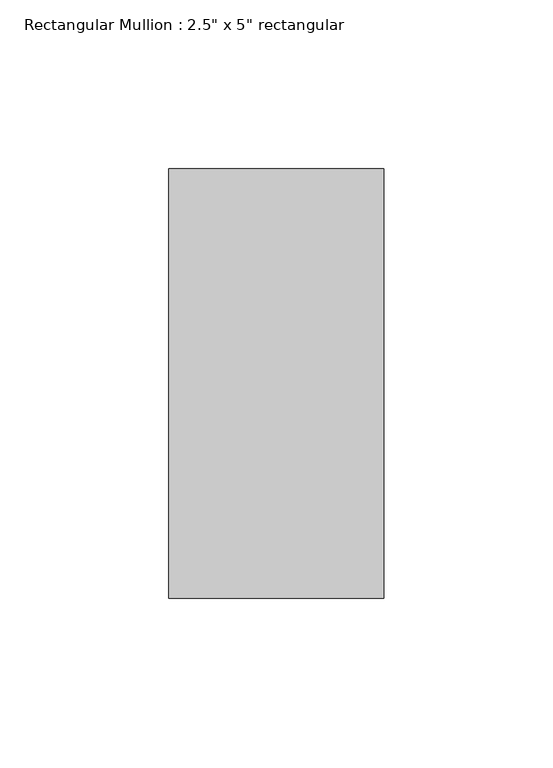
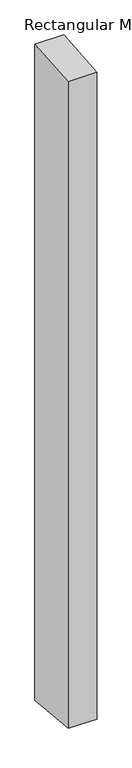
"""IFC4 building model written with IfcOpenShell, lengths in millimetres: member geometry."""

import ifcopenshell
import ifcopenshell.guid

model = None  # the IFC model being written
_history = None  # IfcOwnerHistory: only IFC2X3 demands one
_inside = {}  # id of a spatial element -> (the spatial element, [elements in it])
_under = {}  # id of a project, library or spatial element -> (it, [spatial elements below it])
_declared = {}  # id of a project -> (the project, [libraries it declares])
_typed = {}  # id of a type object -> (the type object, [elements of that type])
_made_of = {}  # id of a material, layer set ... -> (it, [elements and type objects made of it])


def new_model(schema):
    """Start an empty IFC model of exactly this schema.

    Asked for "IFC4X3", IfcOpenShell would pick the latest addendum, in which some entities
    have other attributes; the version numbers below select the first issue.
    IFC2X3 requires an IfcOwnerHistory on every rooted entity: one is made here for all.
    """
    global model, _history
    if schema == "IFC4X3":
        model = ifcopenshell.file(schema_version=(4, 3, 0, 0))
    else:
        model = ifcopenshell.file(schema=schema)
    _inside.clear()
    _under.clear()
    _declared.clear()
    _typed.clear()
    _made_of.clear()
    _history = None
    if model.schema == "IFC2X3":
        org = make("IfcOrganization", Name="unknown")
        user = make(
            "IfcPersonAndOrganization",
            ThePerson=make("IfcPerson", FamilyName="unknown"),
            TheOrganization=org,
        )
        app = make(
            "IfcApplication",
            ApplicationDeveloper=org,
            Version="unknown",
            ApplicationFullName="unknown",
            ApplicationIdentifier="unknown",
        )
        _history = make(
            "IfcOwnerHistory",
            OwningUser=user,
            OwningApplication=app,
            ChangeAction="ADDED",
            CreationDate=0,
        )
    return model


def make(cls, **values):
    """One entity of the class cls with the attributes given. An attribute that is None is left unset."""
    return model.create_entity(
        cls, **{name: value for name, value in values.items() if value is not None}
    )


def rooted(cls, **values):
    """An entity with a GlobalId (a new one), such as an element, a storey or a relation."""
    return make(cls, GlobalId=ifcopenshell.guid.new(), OwnerHistory=_history, **values)


def si_unit(unit_type, name, prefix=None):
    """IfcSIUnit, for example si_unit("LENGTHUNIT", "METRE", prefix="MILLI")."""
    return make("IfcSIUnit", UnitType=unit_type, Prefix=prefix, Name=name)


def assignment(units):
    """IfcUnitAssignment: the units of a project."""
    return None if units is None else make("IfcUnitAssignment", Units=units)


def point(xyz):
    """IfcCartesianPoint."""
    return None if xyz is None else make("IfcCartesianPoint", Coordinates=xyz)


def direction(xyz):
    """IfcDirection."""
    return None if xyz is None else make("IfcDirection", DirectionRatios=xyz)


def frame(location, z_axis=None, x_axis=None):
    """IfcAxis2Placement3D, a coordinate frame: its origin and axes. An axis left out is left unset."""
    return make(
        "IfcAxis2Placement3D",
        Location=point(location),
        Axis=direction(z_axis),
        RefDirection=direction(x_axis),
    )


def origin():
    """The frame at (0, 0, 0) with its axes left unset."""
    return frame((0.0, 0.0, 0.0))


def place(relative_to, where):
    """IfcLocalPlacement: puts the frame where relative to a parent placement (None: the world)."""
    return make(
        "IfcLocalPlacement", PlacementRelTo=relative_to, RelativePlacement=where
    )


def context(
    kind, dimensions, precision=None, world=None, true_north=None, identifier=None
):
    """IfcGeometricRepresentationContext, for example the 3D "Model" context."""
    return make(
        "IfcGeometricRepresentationContext",
        ContextIdentifier=identifier,
        ContextType=kind,
        CoordinateSpaceDimension=dimensions,
        Precision=precision,
        WorldCoordinateSystem=world,
        TrueNorth=true_north,
    )


def project(units=None, contexts=None):
    """IfcProject with its units and contexts."""
    return rooted(
        "IfcProject",
        Name="project",
        RepresentationContexts=contexts,
        UnitsInContext=assignment(units),
    )


def spatial(cls, under=None, at=None, **own):
    """A site, building, storey or space (cls), placed at a placement, below another one or the project."""
    s = rooted(cls, ObjectPlacement=at, **own)
    if under is not None:
        _under.setdefault(under.id(), (under, []))[1].append(s)
    return s


def faces_of(points, faces, orient=None, outer=None):
    """IfcFace entities. A face is a list of loops; a loop is a list of indices into points, from 0.

    orient and outer hold one flag for each loop. By default every Orientation is true, the
    first loop of a face is its IfcFaceOuterBound and the others are IfcFaceBound.
    """
    made = []
    for i, loops in enumerate(faces):
        bounds = []
        for j, loop in enumerate(loops):
            is_outer = j == 0 if outer is None else outer[i][j]
            bounds.append(
                make(
                    "IfcFaceOuterBound" if is_outer else "IfcFaceBound",
                    Bound=make("IfcPolyLoop", Polygon=[points[k] for k in loop]),
                    Orientation=True if orient is None else orient[i][j],
                )
            )
        made.append(make("IfcFace", Bounds=bounds))
    return made


def faceted_brep(points, faces, orient=None, outer=None, voids=None):
    """IfcFacetedBrep: a solid bounded by flat faces; with voids (closed shells), ...WithVoids."""
    shared = [point(p) for p in points]
    hull = make("IfcClosedShell", CfsFaces=faces_of(shared, faces, orient, outer))
    if voids is None:
        return make("IfcFacetedBrep", Outer=hull)
    return make(
        "IfcFacetedBrepWithVoids",
        Outer=hull,
        Voids=[
            make(cls, CfsFaces=faces_of(shared, fs, o, b)) for cls, fs, o, b in voids
        ],
    )


def shape(context_of_items, identifier, shape_type, items):
    """IfcShapeRepresentation: the items that make up one representation, for example the "Body"."""
    return make(
        "IfcShapeRepresentation",
        ContextOfItems=context_of_items,
        RepresentationIdentifier=identifier,
        RepresentationType=shape_type,
        Items=items,
    )


def source(mapping_origin, context_of_items, identifier, shape_type, items):
    """IfcRepresentationMap: a shape defined once, which mapped items show again and again."""
    return make(
        "IfcRepresentationMap",
        MappingOrigin=mapping_origin,
        MappedRepresentation=shape(context_of_items, identifier, shape_type, items),
    )


def transform(
    local_origin,
    x_axis=None,
    y_axis=None,
    z_axis=None,
    scale=None,
    scale2=None,
    scale3=None,
    uniform=True,
):
    """IfcCartesianTransformationOperator3D, or its non-uniform kind. x_axis, y_axis, z_axis: its Axis1, 2, 3."""
    if uniform:
        return make(
            "IfcCartesianTransformationOperator3D",
            Axis1=direction(x_axis),
            Axis2=direction(y_axis),
            LocalOrigin=point(local_origin),
            Scale=scale,
            Axis3=direction(z_axis),
        )
    return make(
        "IfcCartesianTransformationOperator3DnonUniform",
        Axis1=direction(x_axis),
        Axis2=direction(y_axis),
        LocalOrigin=point(local_origin),
        Scale=scale,
        Axis3=direction(z_axis),
        Scale2=scale2,
        Scale3=scale3,
    )


def mapped(mapping_source, mapping_target):
    """IfcMappedItem: shows the shape of a source again, moved by a transform."""
    return make(
        "IfcMappedItem", MappingSource=mapping_source, MappingTarget=mapping_target
    )


def made_of(thing, what):
    """Note that an element or type object is made of a material, layer set ...; save() writes the relation."""
    if what is not None:
        _made_of.setdefault(what.id(), (what, []))[1].append(thing)
    return thing


def element(
    cls,
    number,
    at=None,
    inside=None,
    cuts=None,
    type_object=None,
    material=None,
    context=None,
    identifier="Body",
    shape_type=None,
    held_by="IfcProductDefinitionShape",
    body=None,
    shapes=None,
    **own,
):
    """One element of the class cls, such as IfcWall. Its Tag is "e" and its number.

    at: its placement. inside: the storey or other place that contains it. cuts: it is an
    opening in that element (IfcRelVoidsElement). A single representation is given by context,
    identifier, shape_type and body (its items); several are given by shapes. held_by: the class
    of the entity that holds the representations. save() writes the other relations.
    """
    e = rooted(cls, Tag="e%d" % number, ObjectPlacement=at, **own)
    if body is not None:
        shapes = [shape(context, identifier, shape_type, body)]
    if shapes is not None:
        e.Representation = make(held_by, Representations=shapes)
    if inside is not None:
        _inside.setdefault(inside.id(), (inside, []))[1].append(e)
    if cuts is not None:
        rooted(
            "IfcRelVoidsElement", RelatingBuildingElement=cuts, RelatedOpeningElement=e
        )
    if type_object is not None:
        _typed.setdefault(type_object.id(), (type_object, []))[1].append(e)
    return made_of(e, material)


def aggregate(whole, parts):
    """IfcRelAggregates: a whole, such as a stair, and the parts it consists of."""
    return rooted("IfcRelAggregates", RelatingObject=whole, RelatedObjects=parts)


def save(model, path):
    """Write the relations noted so far, then the file.

    IfcRelAggregates (storeys below a building ...), IfcRelContainedInSpatialStructure (elements
    in a storey), IfcRelDefinesByType, IfcRelAssociatesMaterial and IfcRelDeclares: one each for
    every whole, place, type object, material and project.
    """
    for whole, parts in _under.values():
        aggregate(whole, parts)
    for where, things in _inside.values():
        rooted(
            "IfcRelContainedInSpatialStructure",
            RelatedElements=things,
            RelatingStructure=where,
        )
    for kind, things in _typed.values():
        rooted("IfcRelDefinesByType", RelatedObjects=things, RelatingType=kind)
    for what, things in _made_of.values():
        rooted("IfcRelAssociatesMaterial", RelatedObjects=things, RelatingMaterial=what)
    for by, libraries in _declared.values():
        rooted("IfcRelDeclares", RelatingContext=by, RelatedDefinitions=libraries)
    model.write(path)


def member_05436e89(model_context):
    return source(origin(), model_context, "Body", "Brep", [
        faceted_brep([(-63.5, 63.5, 5.1782405), (0.0, 63.5, 5.3085379), (0.0, 63.5, -1529.3085379), (-63.5, 63.5, -1529.1782405), (-63.5, -63.5, -5.4388354), (-63.5, -63.5, -1518.5611646), (0.0, -63.5, -5.3085379), (0.0, -63.5, -1518.6914621)], [[[0, 1, 2, 3]], [[4, 0, 3, 5]], [[6, 4, 5, 7]], [[1, 6, 7, 2]], [[1, 0, 4, 6]], [[2, 7, 5, 3]]]),
    ])


if __name__ == "__main__":
    model = new_model("IFC4")
    model_context = context("Model", 3, world=origin())
    ifc_project = project(units=[si_unit("LENGTHUNIT", "METRE", prefix="MILLI")], contexts=[model_context])
    site = spatial("IfcSite", under=ifc_project)
    building = spatial("IfcBuilding", under=site)
    placement = place(None, origin())
    member_shape = member_05436e89(model_context)
    element("IfcMember", 1, ObjectType="Rectangular Mullion : 2.5\" x 5\" rectangular", at=placement, inside=building, context=model_context, shape_type="MappedRepresentation", body=[
        mapped(member_shape, transform((0.0, 0.0, 0.0), x_axis=(1.0, 0.0, 0.0), y_axis=(0.0, 1.0, 0.0), z_axis=(0.0, 0.0, 1.0))),
    ])
    save(model, "model.ifc")
